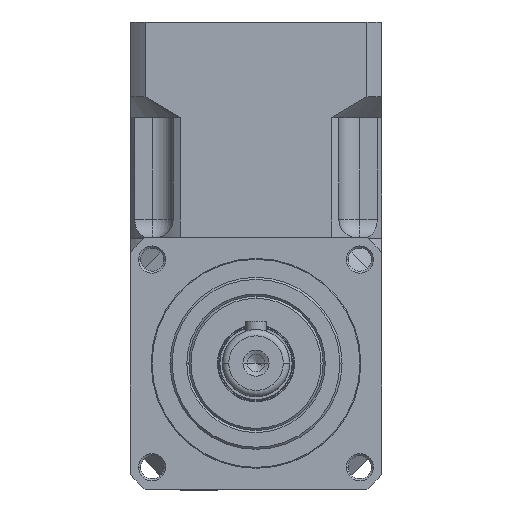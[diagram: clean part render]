
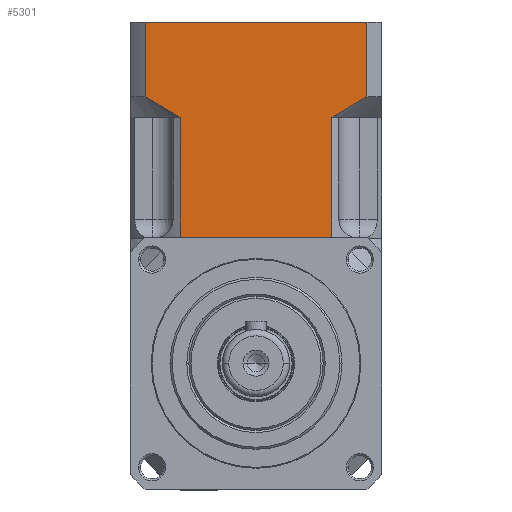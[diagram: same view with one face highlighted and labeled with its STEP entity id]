
A CAD part, top view. The second image highlights one B-rep face of the part: STEP entity #5301.
In plain terms, the highlighted planar face has unit normal (0, 0, 1).
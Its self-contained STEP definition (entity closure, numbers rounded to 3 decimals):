
#828 = CARTESIAN_POINT ( 'NONE',  ( 25.098, 62.8, -57. ) ) ;
#900 = CARTESIAN_POINT ( 'NONE',  ( -18.028, 30., -57. ) ) ;
#1100 = VECTOR ( 'NONE', #15715, 1000. ) ;
#1114 = CARTESIAN_POINT ( 'NONE',  ( 20.912, 60.252, -57. ) ) ;
#1264 = VERTEX_POINT ( 'NONE', #20614 ) ;
#2066 = EDGE_CURVE ( 'NONE', #15936, #19726, #7194, .T. ) ;
#2845 = CARTESIAN_POINT ( 'NONE',  ( -26.458, 63.7, -57. ) ) ;
#2933 = CARTESIAN_POINT ( 'NONE',  ( 26.458, 63.7, -57. ) ) ;
#2972 = ORIENTED_EDGE ( 'NONE', *, *, #15572, .F. ) ;
#3609 = DIRECTION ( 'NONE',  ( 1., 0., 0. ) ) ;
#4533 = EDGE_CURVE ( 'NONE', #24489, #6943, #6866, .T. ) ;
#4843 = LINE ( 'NONE', #7302, #1100 ) ;
#5035 = CARTESIAN_POINT ( 'NONE',  ( 26.458, 81.5, -57. ) ) ;
#5202 = CARTESIAN_POINT ( 'NONE',  ( 23.719, 61.927, -57. ) ) ;
#5301 = ADVANCED_FACE ( 'NONE', ( #20754 ), #16550, .F. ) ;
#5891 = VECTOR ( 'NONE', #27967, 1000. ) ;
#5931 = CARTESIAN_POINT ( 'NONE',  ( 30., 30., -57. ) ) ;
#6809 = VERTEX_POINT ( 'NONE', #24882 ) ;
#6866 = LINE ( 'NONE', #27788, #5891 ) ;
#6943 = VERTEX_POINT ( 'NONE', #9880 ) ;
#7194 = LINE ( 'NONE', #8406, #23424 ) ;
#7302 = CARTESIAN_POINT ( 'NONE',  ( 30., 81.5, -57. ) ) ;
#7398 = CARTESIAN_POINT ( 'NONE',  ( -25.095, 62.799, -57. ) ) ;
#7762 = AXIS2_PLACEMENT_3D ( 'NONE', #25332, #27220, #3609 ) ;
#7838 = VECTOR ( 'NONE', #14762, 1000. ) ;
#8318 = ORIENTED_EDGE ( 'NONE', *, *, #16960, .T. ) ;
#8337 = EDGE_LOOP ( 'NONE', ( #19578, #20804, #8318, #23597, #2972, #27323, #25257, #10217 ) ) ;
#8406 = CARTESIAN_POINT ( 'NONE',  ( 18.028, 58.7, -57. ) ) ;
#8619 = CARTESIAN_POINT ( 'NONE',  ( 18.028, 30., -57. ) ) ;
#9564 = CARTESIAN_POINT ( 'NONE',  ( 18.028, 58.7, -57. ) ) ;
#9880 = CARTESIAN_POINT ( 'NONE',  ( -18.028, 58.7, -57. ) ) ;
#10140 = LINE ( 'NONE', #14724, #19964 ) ;
#10217 = ORIENTED_EDGE ( 'NONE', *, *, #15916, .F. ) ;
#11467 = CARTESIAN_POINT ( 'NONE',  ( -18.028, 58.7, -57. ) ) ;
#13338 = EDGE_CURVE ( 'NONE', #21323, #25404, #23726, .T. ) ;
#13913 = CARTESIAN_POINT ( 'NONE',  ( -19.485, 59.45, -57. ) ) ;
#14724 = CARTESIAN_POINT ( 'NONE',  ( -26.458, 37.766, -57. ) ) ;
#14762 = DIRECTION ( 'NONE',  ( 0., -1., 0. ) ) ;
#14786 = VECTOR ( 'NONE', #20892, 1000. ) ;
#15572 = EDGE_CURVE ( 'NONE', #25404, #15936, #21897, .T. ) ;
#15715 = DIRECTION ( 'NONE',  ( -1., 0., 0. ) ) ;
#15916 = EDGE_CURVE ( 'NONE', #6809, #1264, #10140, .T. ) ;
#15936 = VERTEX_POINT ( 'NONE', #21353 ) ;
#15976 = CARTESIAN_POINT ( 'NONE',  ( 19.48, 59.448, -57. ) ) ;
#16360 = B_SPLINE_CURVE_WITH_KNOTS ( 'NONE', 3,
 ( #11467, #13913, #20270, #20460, #7398, #2845 ),
 .UNSPECIFIED., .F., .F.,
 ( 4, 2, 4 ),
 ( 0.099, 0.104, 0.109 ),
 .UNSPECIFIED. ) ;
#16550 = PLANE ( 'NONE',  #7762 ) ;
#16794 = DIRECTION ( 'NONE',  ( 0., 1., 0. ) ) ;
#16960 = EDGE_CURVE ( 'NONE', #24489, #19726, #26952, .T. ) ;
#19578 = ORIENTED_EDGE ( 'NONE', *, *, #23818, .F. ) ;
#19726 = VERTEX_POINT ( 'NONE', #8619 ) ;
#19964 = VECTOR ( 'NONE', #16794, 1000. ) ;
#19971 = EDGE_CURVE ( 'NONE', #21323, #1264, #4843, .T. ) ;
#20270 = CARTESIAN_POINT ( 'NONE',  ( -20.91, 60.251, -57. ) ) ;
#20460 = CARTESIAN_POINT ( 'NONE',  ( -23.715, 61.925, -57. ) ) ;
#20614 = CARTESIAN_POINT ( 'NONE',  ( -26.458, 81.5, -57. ) ) ;
#20754 = FACE_OUTER_BOUND ( 'NONE', #8337, .T. ) ;
#20804 = ORIENTED_EDGE ( 'NONE', *, *, #4533, .F. ) ;
#20892 = DIRECTION ( 'NONE',  ( 1., 0., 0. ) ) ;
#21323 = VERTEX_POINT ( 'NONE', #5035 ) ;
#21353 = CARTESIAN_POINT ( 'NONE',  ( 18.028, 58.7, -57. ) ) ;
#21897 = B_SPLINE_CURVE_WITH_KNOTS ( 'NONE', 3,
 ( #2933, #828, #5202, #1114, #15976, #9564 ),
 .UNSPECIFIED., .F., .F.,
 ( 4, 2, 4 ),
 ( 0.051, 0.056, 0.061 ),
 .UNSPECIFIED. ) ;
#22944 = CARTESIAN_POINT ( 'NONE',  ( 26.458, 63.7, -57. ) ) ;
#23424 = VECTOR ( 'NONE', #23621, 1000. ) ;
#23597 = ORIENTED_EDGE ( 'NONE', *, *, #2066, .F. ) ;
#23621 = DIRECTION ( 'NONE',  ( 0., -1., 0. ) ) ;
#23726 = LINE ( 'NONE', #27685, #7838 ) ;
#23818 = EDGE_CURVE ( 'NONE', #6943, #6809, #16360, .T. ) ;
#24489 = VERTEX_POINT ( 'NONE', #900 ) ;
#24882 = CARTESIAN_POINT ( 'NONE',  ( -26.458, 63.7, -57. ) ) ;
#25257 = ORIENTED_EDGE ( 'NONE', *, *, #19971, .T. ) ;
#25332 = CARTESIAN_POINT ( 'NONE',  ( 30., 41., -57. ) ) ;
#25404 = VERTEX_POINT ( 'NONE', #22944 ) ;
#26952 = LINE ( 'NONE', #5931, #14786 ) ;
#27220 = DIRECTION ( 'NONE',  ( 0., 0., -1. ) ) ;
#27323 = ORIENTED_EDGE ( 'NONE', *, *, #13338, .F. ) ;
#27685 = CARTESIAN_POINT ( 'NONE',  ( 26.458, 37.766, -57. ) ) ;
#27788 = CARTESIAN_POINT ( 'NONE',  ( -18.028, 58.7, -57. ) ) ;
#27967 = DIRECTION ( 'NONE',  ( 0., 1., 0. ) ) ;
